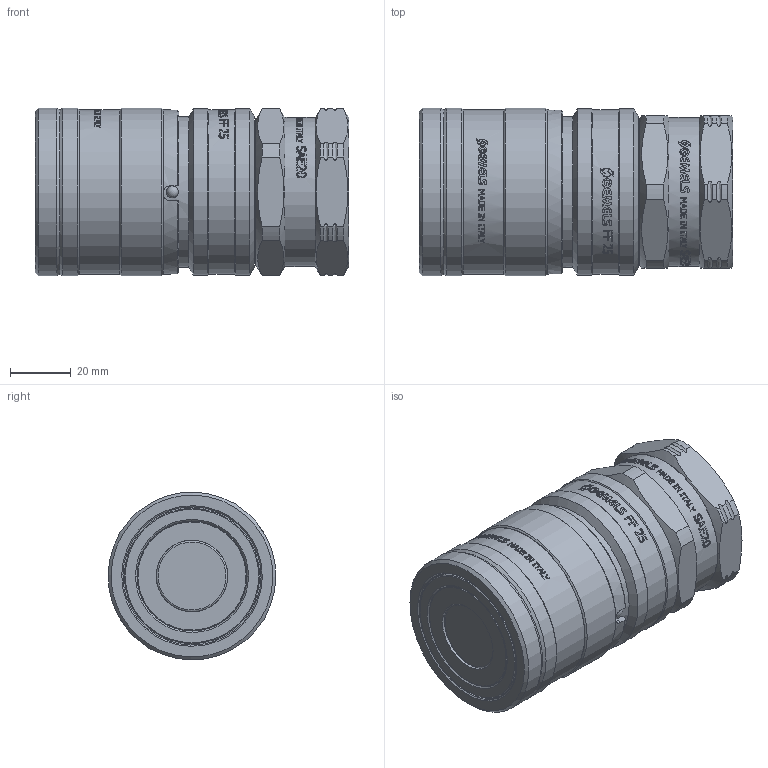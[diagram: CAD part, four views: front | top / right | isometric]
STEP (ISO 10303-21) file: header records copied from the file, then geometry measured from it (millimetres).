
FILE_DESCRIPTION(/* description */ (''),/* implementation_level */ '2;1');
FILE_NAME(/* name */ 'NC06S060000.stp',/* time_stamp */ '2024-11-22T15:30:32+01:00',/* author */ ('thomas.belotti'),/* organization */ (''),/* preprocessor_version */ 'ST-DEVELOPER v20',/* originating_system */ 'Autodesk Inventor 2024',/* authorisation */ '');
FILE_SCHEMA (('AUTOMOTIVE_DESIGN { 1 0 10303 214 3 1 1 }'));
Products named in the file (1): Parte14
Bounding box: 103.07 x 55.19 x 55.19 mm (x, y, z)
Volume: 199439.8 mm3; surface area: 29961.7 mm2
Topology: 2 solids, 4 shells, 1669 faces, 4733 edges, 3147 vertices
Faces by surface type: bspline 1069, plane 425, cylinder 130, cone 25, torus 16, sphere 4
Full cylindrical faces by diameter (mm): 3.9 x4, 23.6 x1, 36 x1, 36.2 x1, 38.989 x2, 39 x1, 40 x1, 44.5 x1, 45.4 x1, 46.581 x1, 49 x1, 49.5 x1, 49.7 x1, 54 x2, 54.7 x2, 55.2 x3
Entity records: 72299 total; most frequent: CARTESIAN_POINT 34305, ORIENTED_EDGE 9464, EDGE_CURVE 4732, DIRECTION 4255, VERTEX_POINT 3146, B_SPLINE_CURVE_WITH_KNOTS 2249, LINE 1857, VECTOR 1857
